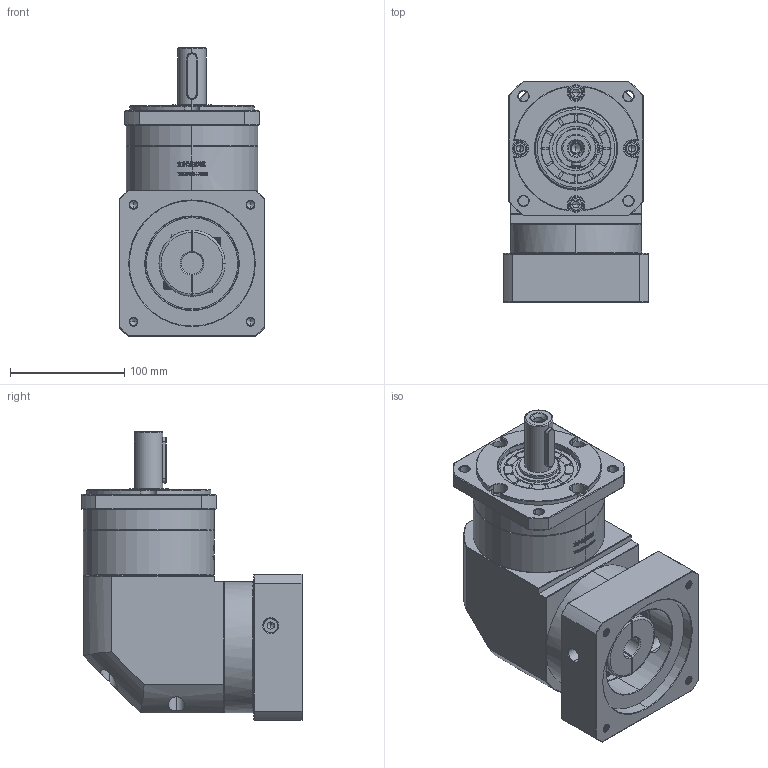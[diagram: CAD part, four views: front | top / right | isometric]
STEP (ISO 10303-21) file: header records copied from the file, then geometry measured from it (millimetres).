
FILE_DESCRIPTION (( 'STEP AP214' ), '1' );
FILE_NAME ('ZFR120A-D25-L1-19-110-145-M8.step', '2023-03-08T08:17:43', ( '' ), ( '' ), 'SwSTEP 2.0', 'SolidWorks 2016', '' );
FILE_SCHEMA (( 'AUTOMOTIVE_DESIGN' ));
Length unit declared in the file: millimetre
Products named in the file (1): ZFR120A-D25-L1-19-110-145-M8
Bounding box: 128 x 193.9 x 253 mm (x, y, z)
Volume: 2979008.7 mm3; surface area: 251544.5 mm2
Topology: 6 solids, 6 shells, 2870 faces, 7661 edges, 4936 vertices
Faces by surface type: plane 1484, bspline 607, cylinder 434, cone 337, torus 8
Entity records: 157750 total; most frequent: CARTESIAN_POINT 60493, ORIENTED_EDGE 15262, DIRECTION 11092, EDGE_CURVE 7631, VERTEX_POINT 4936, VECTOR 4748, LINE 4748, AXIS2_PLACEMENT_3D 3172
